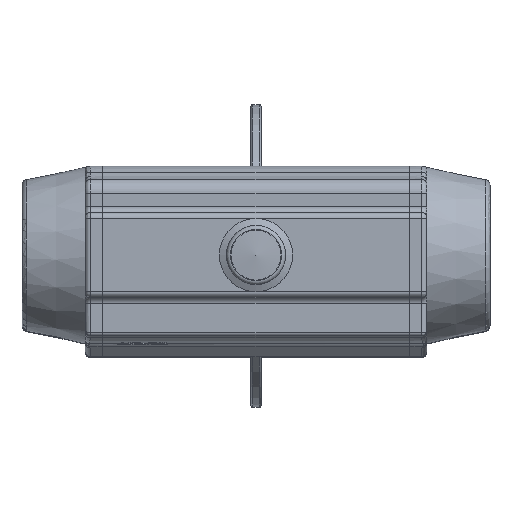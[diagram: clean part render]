
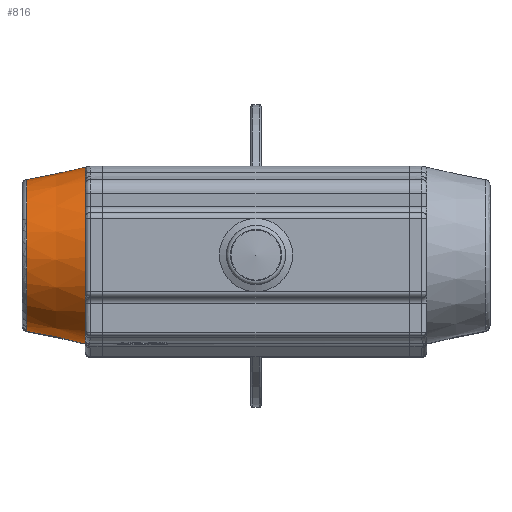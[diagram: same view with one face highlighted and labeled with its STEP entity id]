
A CAD part, top view. The second image highlights one B-rep face of the part: STEP entity #816.
In plain terms, the highlighted conical face has half-angle 12 degrees and reference radius 88 mm.
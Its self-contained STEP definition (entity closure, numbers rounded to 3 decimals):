
#816 = ADVANCED_FACE( '', ( #2136, #2137 ), #2138, .T. );
#2136 = FACE_BOUND( '', #4742, .T. );
#2137 = FACE_OUTER_BOUND( '', #4743, .T. );
#2138 = CONICAL_SURFACE( '', #4744, 88., 0.209 );
#4742 = EDGE_LOOP( '', ( #11512 ) );
#4743 = EDGE_LOOP( '', ( #11513, #11514, #11515, #11516, #11517, #11518, #11519, #11520, #11521, #11522, #11523, #11524 ) );
#4744 = AXIS2_PLACEMENT_3D( '', #11525, #11526, #11527 );
#11512 = ORIENTED_EDGE( '', *, *, #16262, .T. );
#11513 = ORIENTED_EDGE( '', *, *, #16680, .F. );
#11514 = ORIENTED_EDGE( '', *, *, #16681, .F. );
#11515 = ORIENTED_EDGE( '', *, *, #16682, .F. );
#11516 = ORIENTED_EDGE( '', *, *, #16683, .F. );
#11517 = ORIENTED_EDGE( '', *, *, #16613, .F. );
#11518 = ORIENTED_EDGE( '', *, *, #16684, .F. );
#11519 = ORIENTED_EDGE( '', *, *, #16685, .F. );
#11520 = ORIENTED_EDGE( '', *, *, #16686, .F. );
#11521 = ORIENTED_EDGE( '', *, *, #16687, .F. );
#11522 = ORIENTED_EDGE( '', *, *, #16688, .F. );
#11523 = ORIENTED_EDGE( '', *, *, #16273, .F. );
#11524 = ORIENTED_EDGE( '', *, *, #16689, .F. );
#11525 = CARTESIAN_POINT( '', ( -170.5, 0., 0. ) );
#11526 = DIRECTION( '', ( 1., 0., 0. ) );
#11527 = DIRECTION( '', ( 0., 0., 1. ) );
#16262 = EDGE_CURVE( '', #18362, #18362, #18363, .T. );
#16273 = EDGE_CURVE( '', #18381, #18383, #18384, .T. );
#16613 = EDGE_CURVE( '', #18990, #18985, #18992, .T. );
#16680 = EDGE_CURVE( '', #19099, #19100, #19101, .T. );
#16681 = EDGE_CURVE( '', #19102, #19099, #19103, .T. );
#16682 = EDGE_CURVE( '', #19104, #19102, #19105, .T. );
#16683 = EDGE_CURVE( '', #18985, #19104, #19106, .T. );
#16684 = EDGE_CURVE( '', #19107, #18990, #19108, .T. );
#16685 = EDGE_CURVE( '', #18347, #19107, #19109, .T. );
#16686 = EDGE_CURVE( '', #19110, #18347, #19111, .T. );
#16687 = EDGE_CURVE( '', #19112, #19110, #19113, .T. );
#16688 = EDGE_CURVE( '', #18383, #19112, #19114, .T. );
#16689 = EDGE_CURVE( '', #19100, #18381, #19115, .T. );
#18347 = VERTEX_POINT( '', #21486 );
#18362 = VERTEX_POINT( '', #21556 );
#18363 = CIRCLE( '', #21557, 75.619 );
#18381 = VERTEX_POINT( '', #21583 );
#18383 = VERTEX_POINT( '', #21585 );
#18384 = CIRCLE( '', #21586, 88. );
#18985 = VERTEX_POINT( '', #24189 );
#18990 = VERTEX_POINT( '', #24225 );
#18992 = CIRCLE( '', #24227, 88. );
#19099 = VERTEX_POINT( '', #24459 );
#19100 = VERTEX_POINT( '', #24460 );
#19101 = CIRCLE( '', #24461, 88. );
#19102 = VERTEX_POINT( '', #24462 );
#19103 = CIRCLE( '', #24463, 88. );
#19104 = VERTEX_POINT( '', #24464 );
#19105 = CIRCLE( '', #24465, 88. );
#19106 = CIRCLE( '', #24466, 88. );
#19107 = VERTEX_POINT( '', #24467 );
#19108 = CIRCLE( '', #24468, 88. );
#19109 = CIRCLE( '', #24469, 88. );
#19110 = VERTEX_POINT( '', #24470 );
#19111 = CIRCLE( '', #24471, 88. );
#19112 = VERTEX_POINT( '', #24472 );
#19113 = CIRCLE( '', #24473, 88. );
#19114 = CIRCLE( '', #24474, 88. );
#19115 = CIRCLE( '', #24475, 88. );
#21486 = CARTESIAN_POINT( '', ( -170.5, 73.636, 48.184 ) );
#21556 = CARTESIAN_POINT( '', ( -228.747, 0., -75.619 ) );
#21557 = AXIS2_PLACEMENT_3D( '', #31551, #31552, #31553 );
#21583 = CARTESIAN_POINT( '', ( -170.5, 79.415, -37.912 ) );
#21585 = CARTESIAN_POINT( '', ( -170.5, 86.398, -16.714 ) );
#21586 = AXIS2_PLACEMENT_3D( '', #31565, #31566, #31567 );
#24189 = CARTESIAN_POINT( '', ( -170.5, -85.985, 18.725 ) );
#24225 = CARTESIAN_POINT( '', ( -170.5, -78.996, 38.777 ) );
#24227 = AXIS2_PLACEMENT_3D( '', #31906, #31907, #31908 );
#24459 = CARTESIAN_POINT( '', ( -170.5, -87.949, -2.981 ) );
#24460 = CARTESIAN_POINT( '', ( -170.5, 73.636, -48.184 ) );
#24461 = AXIS2_PLACEMENT_3D( '', #31960, #31961, #31962 );
#24462 = CARTESIAN_POINT( '', ( -170.5, -87.989, 1.37 ) );
#24463 = AXIS2_PLACEMENT_3D( '', #31963, #31964, #31965 );
#24464 = CARTESIAN_POINT( '', ( -170.5, -86.49, 16.23 ) );
#24465 = AXIS2_PLACEMENT_3D( '', #31966, #31967, #31968 );
#24466 = AXIS2_PLACEMENT_3D( '', #31969, #31970, #31971 );
#24467 = CARTESIAN_POINT( '', ( -170.5, -75.5, 45.208 ) );
#24468 = AXIS2_PLACEMENT_3D( '', #31972, #31973, #31974 );
#24469 = AXIS2_PLACEMENT_3D( '', #31975, #31976, #31977 );
#24470 = CARTESIAN_POINT( '', ( -170.5, 79.415, 37.912 ) );
#24471 = AXIS2_PLACEMENT_3D( '', #31978, #31979, #31980 );
#24472 = CARTESIAN_POINT( '', ( -170.5, 86.398, 16.714 ) );
#24473 = AXIS2_PLACEMENT_3D( '', #31981, #31982, #31983 );
#24474 = AXIS2_PLACEMENT_3D( '', #31984, #31985, #31986 );
#24475 = AXIS2_PLACEMENT_3D( '', #31987, #31988, #31989 );
#31551 = CARTESIAN_POINT( '', ( -228.747, 0., 0. ) );
#31552 = DIRECTION( '', ( 1., 0., 0. ) );
#31553 = DIRECTION( '', ( 0., 0., -1. ) );
#31565 = CARTESIAN_POINT( '', ( -170.5, 0., 0. ) );
#31566 = DIRECTION( '', ( 1., 0., 0. ) );
#31567 = DIRECTION( '', ( 0., -1., 0. ) );
#31906 = CARTESIAN_POINT( '', ( -170.5, 0., 0. ) );
#31907 = DIRECTION( '', ( 1., 0., 0. ) );
#31908 = DIRECTION( '', ( 0., -1., 0. ) );
#31960 = CARTESIAN_POINT( '', ( -170.5, 0., 0. ) );
#31961 = DIRECTION( '', ( 1., 0., 0. ) );
#31962 = DIRECTION( '', ( 0., -1., 0. ) );
#31963 = CARTESIAN_POINT( '', ( -170.5, 0., 0. ) );
#31964 = DIRECTION( '', ( 1., 0., 0. ) );
#31965 = DIRECTION( '', ( 0., -1., 0. ) );
#31966 = CARTESIAN_POINT( '', ( -170.5, 0., 0. ) );
#31967 = DIRECTION( '', ( 1., 0., 0. ) );
#31968 = DIRECTION( '', ( 0., -1., 0. ) );
#31969 = CARTESIAN_POINT( '', ( -170.5, 0., 0. ) );
#31970 = DIRECTION( '', ( 1., 0., 0. ) );
#31971 = DIRECTION( '', ( 0., -1., 0. ) );
#31972 = CARTESIAN_POINT( '', ( -170.5, 0., 0. ) );
#31973 = DIRECTION( '', ( 1., 0., 0. ) );
#31974 = DIRECTION( '', ( 0., -1., 0. ) );
#31975 = CARTESIAN_POINT( '', ( -170.5, 0., 0. ) );
#31976 = DIRECTION( '', ( 1., 0., 0. ) );
#31977 = DIRECTION( '', ( 0., -1., 0. ) );
#31978 = CARTESIAN_POINT( '', ( -170.5, 0., 0. ) );
#31979 = DIRECTION( '', ( 1., 0., 0. ) );
#31980 = DIRECTION( '', ( 0., -1., 0. ) );
#31981 = CARTESIAN_POINT( '', ( -170.5, 0., 0. ) );
#31982 = DIRECTION( '', ( 1., 0., 0. ) );
#31983 = DIRECTION( '', ( 0., -1., 0. ) );
#31984 = CARTESIAN_POINT( '', ( -170.5, 0., 0. ) );
#31985 = DIRECTION( '', ( 1., 0., 0. ) );
#31986 = DIRECTION( '', ( 0., -1., 0. ) );
#31987 = CARTESIAN_POINT( '', ( -170.5, 0., 0. ) );
#31988 = DIRECTION( '', ( 1., 0., 0. ) );
#31989 = DIRECTION( '', ( 0., -1., 0. ) );
